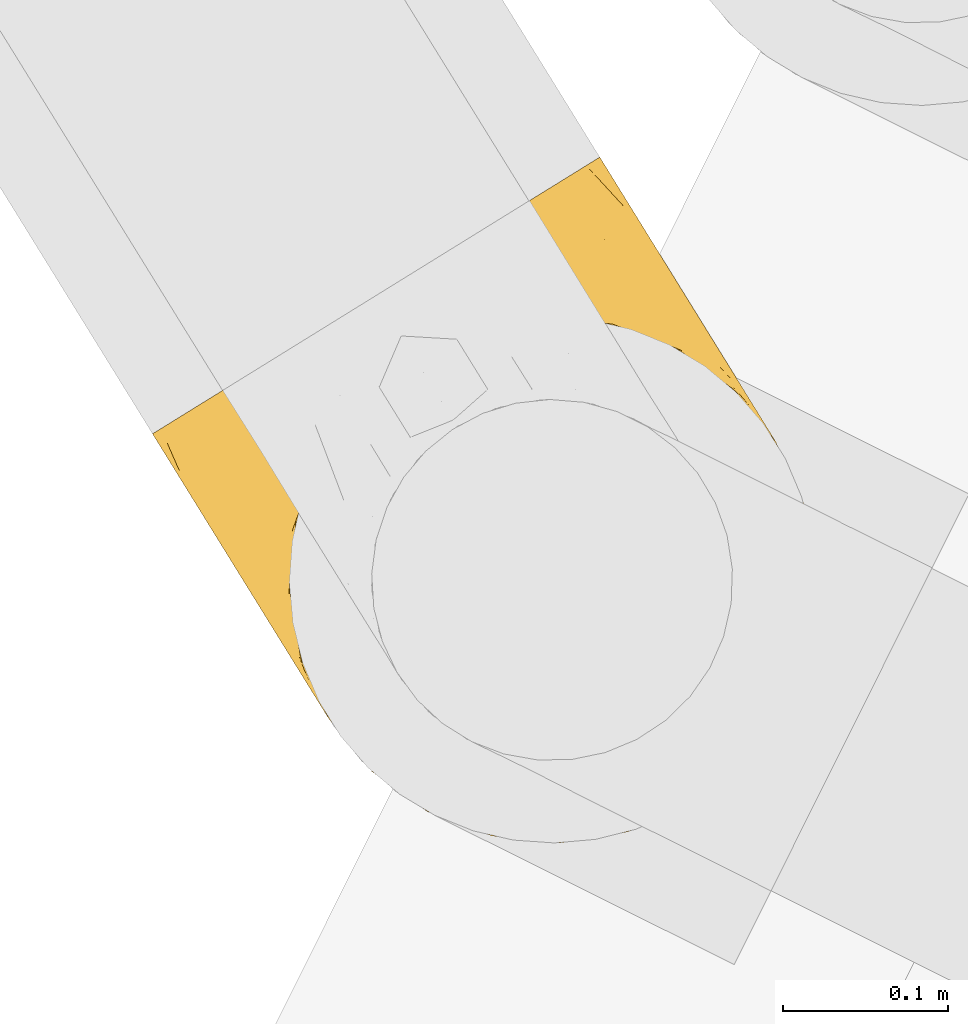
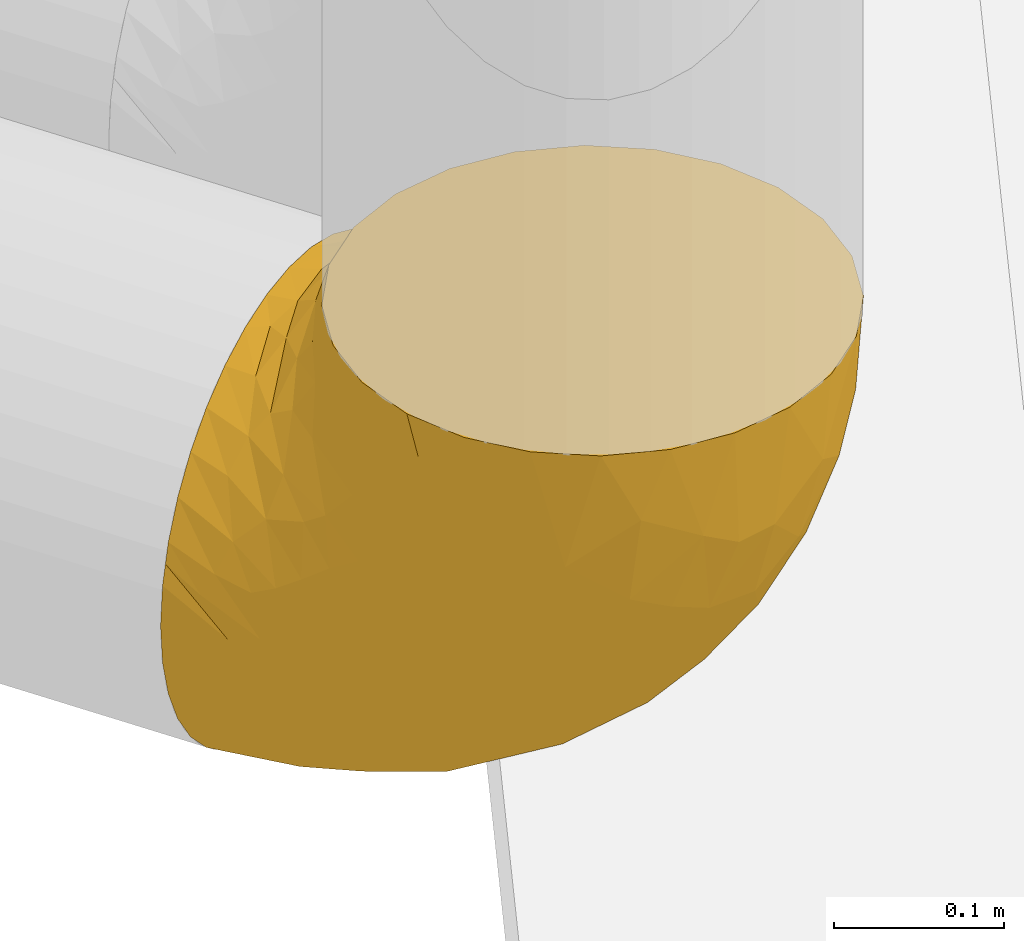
# One storey, part 42 of 91: 1 covering.
"""IFC2X3 building model written with IfcOpenShell, lengths in metres."""

from ifc_helpers import new_model, entity, si_unit, converted_unit, derived_unit, direction, frame, origin, place, context, subcontext, project, spatial, faceted_brep, element, save


model = new_model("IFC2X3")

# Units and contexts
model_context = context("Model", 3, precision=1e-05, world=origin(), true_north=direction((0.894925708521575, 0.446215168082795)))
context_of_model = context(None, 3, precision=1e-05, world=origin(), true_north=direction((0.894925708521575, 0.446215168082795)))
body_context = subcontext(model_context, "Body", "Model", "MODEL_VIEW")
ifc_project = project(units=[si_unit("LENGTHUNIT", "METRE"), si_unit("AREAUNIT", "SQUARE_METRE"), si_unit("VOLUMEUNIT", "CUBIC_METRE"), converted_unit("PLANEANGLEUNIT", "DEGREE", entity("IfcRatioMeasure", 0.0174532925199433), si_unit("PLANEANGLEUNIT", "RADIAN"), dimensions=[0, 0, 0, 0, 0, 0, 0]), si_unit("MASSUNIT", "GRAM", prefix="KILO"), si_unit("TIMEUNIT", "SECOND"), si_unit("FREQUENCYUNIT", "HERTZ"), si_unit("THERMODYNAMICTEMPERATUREUNIT", "DEGREE_CELSIUS"), derived_unit("THERMALTRANSMITTANCEUNIT", [(si_unit("MASSUNIT", "GRAM", prefix="KILO"), 1), (si_unit("THERMODYNAMICTEMPERATUREUNIT", "KELVIN"), -1), (si_unit("TIMEUNIT", "SECOND"), -3)]), derived_unit("VOLUMETRICFLOWRATEUNIT", [(si_unit("LENGTHUNIT", "METRE"), 3), (si_unit("TIMEUNIT", "SECOND"), -1)]), si_unit("ELECTRICCURRENTUNIT", "AMPERE"), si_unit("ELECTRICVOLTAGEUNIT", "VOLT"), si_unit("POWERUNIT", "WATT"), si_unit("FORCEUNIT", "NEWTON", prefix="KILO"), si_unit("ILLUMINANCEUNIT", "LUX"), si_unit("LUMINOUSFLUXUNIT", "LUMEN"), si_unit("LUMINOUSINTENSITYUNIT", "CANDELA"), si_unit("PRESSUREUNIT", "PASCAL")], contexts=[model_context, context_of_model])

# Site, building, storey
site_placement = place(None, frame((218.228324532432, 584.720189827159, 0.0), z_axis=(0.0, 0.0, 1.0), x_axis=(0.446215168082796, 0.894925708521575, 0.0)))
site = spatial("IfcSite", under=ifc_project, at=site_placement, Name="Default", CompositionType="ELEMENT")
building_placement = place(site_placement, origin())
building = spatial("IfcBuilding", under=site, at=building_placement, CompositionType="ELEMENT")
storey_placement = place(building_placement, origin())
storey = spatial("IfcBuildingStorey", under=building, at=storey_placement, Name="0 - Piano Terra", CompositionType="ELEMENT", Elevation=0.0)

# Covering
covering_placement = place(storey_placement, frame((-30.8032905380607, 5.97785126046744, 0.338854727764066)))
element("IfcCovering", 1, at=covering_placement, inside=storey, Name="Isolamento tubazione:Default", ObjectType="Isolamento tubazione:Default", PredefinedType="INSULATION", context=body_context, shape_type="Brep", body=[
    faceted_brep([(0.401519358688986, 0.250969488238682, 0.133442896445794), (0.395398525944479, 0.254758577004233, 0.106575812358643), (0.385403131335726, 0.260946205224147, 0.0813666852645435), (0.371840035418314, 0.269342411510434, 0.05858646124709), (0.355121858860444, 0.279691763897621, 0.0389242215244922), (0.335749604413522, 0.29168411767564, 0.022970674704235), (0.314314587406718, 0.304953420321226, 0.0112156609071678), (0.29147303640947, 0.31909343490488, 0.00401834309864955), (0.267920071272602, 0.333673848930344, 0.0015952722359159), (0.244365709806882, 0.348255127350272, 0.00401863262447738), (0.221521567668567, 0.362396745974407, 0.0112173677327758), (0.200087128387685, 0.375665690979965, 0.0229729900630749), (0.180717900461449, 0.387656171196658, 0.0389245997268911), (0.163999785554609, 0.398005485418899, 0.0585869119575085), (0.150435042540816, 0.406402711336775, 0.0813706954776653), (0.140440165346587, 0.412590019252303, 0.106580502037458), (0.134320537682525, 0.416378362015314, 0.133444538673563), (0.132260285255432, 0.417653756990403, 0.161145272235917), (0.133065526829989, 0.41715527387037, 0.171971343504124), (0.134320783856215, 0.416378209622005, 0.188847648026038), (0.137381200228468, 0.41448366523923, 0.202281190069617), (0.140441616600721, 0.412589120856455, 0.21571473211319), (0.150437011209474, 0.40640149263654, 0.240923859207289), (0.164000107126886, 0.398005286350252, 0.263704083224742), (0.180718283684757, 0.387655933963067, 0.28336632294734), (0.200090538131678, 0.375663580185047, 0.299319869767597), (0.221525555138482, 0.36239427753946, 0.311074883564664), (0.244367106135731, 0.348254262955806, 0.318272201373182), (0.267920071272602, 0.333673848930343, 0.320695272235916), (0.291474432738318, 0.319092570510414, 0.318271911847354), (0.314318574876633, 0.304950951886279, 0.311073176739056), (0.335753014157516, 0.291682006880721, 0.299317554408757), (0.355122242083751, 0.279691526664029, 0.28336594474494), (0.371840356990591, 0.269342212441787, 0.263703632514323), (0.385405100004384, 0.260944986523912, 0.240919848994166), (0.395399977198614, 0.254757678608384, 0.215710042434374), (0.401519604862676, 0.250969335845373, 0.188846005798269), (0.402774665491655, 0.250192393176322, 0.171971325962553), (0.403579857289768, 0.249693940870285, 0.161145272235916), (0.124526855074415, 0.31637876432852, 0.364145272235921), (0.105051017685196, 0.30900371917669, 0.364145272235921), (0.085575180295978, 0.301628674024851, 0.364145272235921), (0.0686717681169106, 0.289464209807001, 0.364145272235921), (0.0517683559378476, 0.277299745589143, 0.364145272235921), (0.039402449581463, 0.262169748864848, 0.364145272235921), (0.0324063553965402, 0.253609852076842, 0.364145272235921), (0.0254102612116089, 0.245049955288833, 0.364145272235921), (0.00829715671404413, 0.20707707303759, 0.364145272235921), (0.00159527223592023, 0.165968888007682, 0.364145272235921), (0.00576133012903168, 0.124526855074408, 0.364145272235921), (0.0205114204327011, 0.0855751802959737, 0.364145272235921), (0.044840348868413, 0.0517683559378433, 0.364145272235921), (0.0770901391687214, 0.0254102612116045, 0.364145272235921), (0.115063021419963, 0.0082971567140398, 0.364145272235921), (0.156171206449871, 0.0015952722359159, 0.364145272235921), (0.197613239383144, 0.00576133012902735, 0.364145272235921), (0.23656491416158, 0.0205114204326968, 0.364145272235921), (0.270371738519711, 0.0448403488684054, 0.364145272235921), (0.29672983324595, 0.0770901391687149, 0.364145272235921), (0.301272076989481, 0.0871690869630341, 0.364145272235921), (0.305814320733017, 0.097248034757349, 0.364145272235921), (0.313842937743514, 0.115063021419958, 0.364145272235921), (0.317193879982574, 0.135617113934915, 0.364145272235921), (0.320544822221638, 0.156171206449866, 0.364145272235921), (0.318461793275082, 0.176892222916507, 0.364145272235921), (0.316378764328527, 0.197613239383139, 0.364145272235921), (0.301628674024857, 0.236564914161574, 0.364145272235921), (0.27729974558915, 0.270371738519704, 0.364145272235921), (0.245049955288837, 0.296729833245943, 0.364145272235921), (0.207077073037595, 0.313842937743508, 0.364145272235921), (0.165968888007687, 0.320544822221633, 0.364145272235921), (0.145247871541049, 0.31846179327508, 0.364145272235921), (0.11966708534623, 0.0181429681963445, 0.275645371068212), (0.0799892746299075, 0.0300934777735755, 0.301189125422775), (0.0885985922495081, 0.0440008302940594, 0.240145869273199), (0.282469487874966, 0.0810856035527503, 0.19270285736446), (0.312629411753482, 0.109460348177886, 0.197037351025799), (0.274916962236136, 0.0578786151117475, 0.25767405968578), (0.320041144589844, 0.114746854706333, 0.237576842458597), (0.313676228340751, 0.104465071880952, 0.256821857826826), (0.307311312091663, 0.0941832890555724, 0.276066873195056), (0.158392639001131, 0.0280431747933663, 0.223051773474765), (0.128484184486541, 0.0370541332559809, 0.215164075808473), (0.143626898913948, 0.0644998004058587, 0.159526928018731), (0.263513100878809, 0.128696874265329, 0.0926591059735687), (0.252721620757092, 0.0849492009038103, 0.144663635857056), (0.218796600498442, 0.0822584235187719, 0.130966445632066), (0.144083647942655, 0.00691847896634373, 0.305777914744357), (0.21345696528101, 0.013125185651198, 0.314219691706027), (0.314415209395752, 0.127255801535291, 0.149883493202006), (0.10265650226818, 0.0667097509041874, 0.18287027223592), (0.121735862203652, 0.0975302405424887, 0.131102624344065), (0.157371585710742, 0.102605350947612, 0.109488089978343), (0.145256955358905, 0.135525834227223, 0.0864158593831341), (0.379803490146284, 0.211285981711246, 0.166234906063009), (0.351537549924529, 0.172311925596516, 0.146967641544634), (0.214060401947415, 0.0253899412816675, 0.250140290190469), (0.249074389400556, 0.0464782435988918, 0.22901119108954), (0.249588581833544, 0.0320885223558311, 0.301075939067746), (0.277161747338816, 0.231661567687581, 0.023651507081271), (0.221400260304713, 0.187186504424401, 0.038568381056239), (0.245891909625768, 0.241989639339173, 0.0156740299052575), (0.29940878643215, 0.0814176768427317, 0.318973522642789), (0.298055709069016, 0.0792319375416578, 0.341788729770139), (0.297392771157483, 0.0781610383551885, 0.35296700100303), (0.173672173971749, 0.00844345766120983, 0.292024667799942), (0.202652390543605, 0.2282414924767, 0.0234597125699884), (0.172505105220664, 0.179542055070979, 0.0501677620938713), (0.303360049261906, 0.0878004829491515, 0.297520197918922), (0.352214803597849, 0.204094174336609, 0.0922467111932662), (0.186776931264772, 0.091611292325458, 0.115617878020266), (0.196209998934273, 0.135683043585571, 0.073154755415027), (0.222589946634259, 0.123344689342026, 0.0846018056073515), (0.313666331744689, 0.177298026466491, 0.0773627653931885), (0.324842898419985, 0.222027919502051, 0.0495812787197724), (0.291811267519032, 0.128393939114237, 0.114293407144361), (0.256727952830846, 0.166165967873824, 0.056183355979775), (0.234782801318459, 0.28014443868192, 0.00710322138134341), (0.397696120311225, 0.240189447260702, 0.162404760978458), (0.391812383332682, 0.230684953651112, 0.163664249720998), (0.357219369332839, 0.174803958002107, 0.181248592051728), (0.347089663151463, 0.15844059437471, 0.193341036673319), (0.336959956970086, 0.142077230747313, 0.205433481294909), (0.368511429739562, 0.193044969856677, 0.173741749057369), (0.328500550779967, 0.128412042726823, 0.221505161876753), (0.181684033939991, 0.0549779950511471, 0.166460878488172), (0.217488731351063, 0.0500366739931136, 0.185436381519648), (0.18933334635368, 0.0283771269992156, 0.223925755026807), (0.282208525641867, 0.294777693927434, 0.324911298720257), (0.311229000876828, 0.105941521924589, 0.337277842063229), (0.375512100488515, 0.239131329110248, 0.237558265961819), (0.316172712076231, 0.119133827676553, 0.328080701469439), (0.350547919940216, 0.221637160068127, 0.267743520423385), (0.346549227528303, 0.257269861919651, 0.282779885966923), (0.33948551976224, 0.237478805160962, 0.287013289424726), (0.329022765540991, 0.138958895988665, 0.270555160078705), (0.337842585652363, 0.157707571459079, 0.258245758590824), (0.334325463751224, 0.172117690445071, 0.285245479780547), (0.375650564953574, 0.215767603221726, 0.21013471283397), (0.306301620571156, 0.240760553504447, 0.334476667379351), (0.316136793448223, 0.208809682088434, 0.339736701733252), (0.321573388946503, 0.214579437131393, 0.319015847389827), (0.360145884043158, 0.224610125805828, 0.253348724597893), (0.351885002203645, 0.185569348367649, 0.24212711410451), (0.361136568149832, 0.190490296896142, 0.217507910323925), (0.32685966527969, 0.234583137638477, 0.303705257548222), (0.343452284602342, 0.206607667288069, 0.275276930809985), (0.326801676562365, 0.267175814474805, 0.30110672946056), (0.327243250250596, 0.186440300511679, 0.311576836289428), (0.281495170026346, 0.275380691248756, 0.33934129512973), (0.303578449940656, 0.270582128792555, 0.319512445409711), (0.342938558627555, 0.157679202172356, 0.232624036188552), (0.350024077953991, 0.167258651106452, 0.217038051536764), (0.303151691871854, 0.291899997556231, 0.314843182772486), (0.383283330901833, 0.223206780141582, 0.196765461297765), (0.332989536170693, 0.201151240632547, 0.29592410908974), (0.321236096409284, 0.171582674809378, 0.344962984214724), (0.256485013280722, 0.315201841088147, 0.326516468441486), (0.248113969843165, 0.301679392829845, 0.34242027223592), (0.323187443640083, 0.17595626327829, 0.329719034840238), (0.318232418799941, 0.117361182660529, 0.293299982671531), (0.324883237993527, 0.135042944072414, 0.289482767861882), (0.329100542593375, 0.158786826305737, 0.297029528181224), (0.323220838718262, 0.143411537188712, 0.315309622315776), (0.344726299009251, 0.176638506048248, 0.25519646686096), (0.32112769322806, 0.14802413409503, 0.339551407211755), (0.154164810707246, 0.364569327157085, 0.280281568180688), (0.121422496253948, 0.345820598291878, 0.274410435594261), (0.114440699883, 0.356641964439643, 0.247884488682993), (0.229508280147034, 0.330698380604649, 0.323578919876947), (0.211238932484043, 0.321193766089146, 0.336527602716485), (0.138698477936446, 0.321047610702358, 0.343779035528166), (0.111083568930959, 0.31472856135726, 0.338896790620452), (0.0882094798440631, 0.323166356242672, 0.267508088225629), (0.065700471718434, 0.305010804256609, 0.249727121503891), (0.077953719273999, 0.30794504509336, 0.288664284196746), (0.0869877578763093, 0.337345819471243, 0.223062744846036), (0.0972482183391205, 0.335444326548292, 0.257122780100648), (0.0757700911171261, 0.326400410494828, 0.19334103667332), (0.0956209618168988, 0.352055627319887, 0.211214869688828), (0.114582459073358, 0.320307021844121, 0.320742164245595), (0.0280892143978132, 0.249377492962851, 0.318973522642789), (0.0267361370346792, 0.24719175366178, 0.341788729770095), (0.0260731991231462, 0.246120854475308, 0.352967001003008), (0.14012247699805, 0.326050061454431, 0.327025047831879), (0.0447694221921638, 0.270892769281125, 0.337277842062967), (0.217191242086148, 0.347755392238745, 0.314621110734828), (0.185485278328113, 0.35826449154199, 0.301284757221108), (0.19972818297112, 0.339348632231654, 0.318085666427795), (0.0735567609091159, 0.298575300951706, 0.316513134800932), (0.0783817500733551, 0.298684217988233, 0.340160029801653), (0.156281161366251, 0.35148317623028, 0.294403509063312), (0.0320404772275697, 0.25576029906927, 0.297520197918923), (0.118489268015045, 0.329009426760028, 0.30206118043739), (0.0543732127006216, 0.281200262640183, 0.328080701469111), (0.126376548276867, 0.408149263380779, 0.162404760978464), (0.120492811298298, 0.398644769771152, 0.163664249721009), (0.108483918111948, 0.379245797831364, 0.16623490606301), (0.143861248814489, 0.377368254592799, 0.259460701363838), (0.0772864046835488, 0.321654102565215, 0.237066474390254), (0.0571809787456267, 0.296371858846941, 0.221505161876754), (0.120478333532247, 0.375731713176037, 0.228265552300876), (0.168523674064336, 0.325942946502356, 0.336132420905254), (0.0858997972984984, 0.342763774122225, 0.181248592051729), (0.0971918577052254, 0.361004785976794, 0.17374174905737), (0.121042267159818, 0.394941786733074, 0.190630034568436), (0.119418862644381, 0.386474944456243, 0.206112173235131), (0.0598773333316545, 0.295509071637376, 0.264351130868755), (0.0359917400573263, 0.26214310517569, 0.276066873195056), (0.174208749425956, 0.334630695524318, 0.320790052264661), (0.145243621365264, 0.339098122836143, 0.30418606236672), (0.103937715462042, 0.366031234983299, 0.202773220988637), (0.0521669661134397, 0.283203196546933, 0.288174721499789), (0.0656403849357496, 0.310037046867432, 0.20543348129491), (0.0487215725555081, 0.282706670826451, 0.237576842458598), (0.0423566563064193, 0.27242488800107, 0.256821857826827), (0.047294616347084, 0.273715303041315, 0.197037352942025), (0.110388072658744, 0.131690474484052, 0.109488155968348), (0.122676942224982, 0.181203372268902, 0.0731551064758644), (0.00912054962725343, 0.186460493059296, 0.27987032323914), (0.0159967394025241, 0.148000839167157, 0.250140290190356), (0.00528784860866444, 0.141991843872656, 0.314219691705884), (0.0209401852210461, 0.231142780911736, 0.270957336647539), (0.142604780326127, 0.334840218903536, 0.0495818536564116), (0.114345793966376, 0.351344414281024, 0.0922510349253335), (0.083521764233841, 0.323709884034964, 0.134305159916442), (0.0801300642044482, 0.202383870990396, 0.104351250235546), (0.0520680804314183, 0.209163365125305, 0.144663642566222), (0.07836531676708, 0.252871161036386, 0.104304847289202), (0.0874353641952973, 0.153108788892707, 0.115618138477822), (0.0485554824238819, 0.149840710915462, 0.168429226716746), (0.0824093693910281, 0.102396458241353, 0.159526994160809), (0.0341296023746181, 0.0824389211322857, 0.276041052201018), (0.0188374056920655, 0.104293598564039, 0.292024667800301), (0.0707019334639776, 0.0707670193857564, 0.214728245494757), (0.0639345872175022, 0.125613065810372, 0.161374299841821), (0.0431939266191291, 0.099356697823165, 0.22305177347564), (0.0516002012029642, 0.0602796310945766, 0.27564537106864), (0.0387787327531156, 0.221129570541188, 0.175378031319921), (0.111755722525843, 0.36926748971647, 0.116541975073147), (0.0268533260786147, 0.122434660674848, 0.236336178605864), (0.122976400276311, 0.248966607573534, 0.0561838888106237), (0.172487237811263, 0.296462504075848, 0.0236528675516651), (0.157543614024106, 0.226717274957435, 0.0385687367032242), (0.0291481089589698, 0.22949102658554, 0.213108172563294), (0.0292810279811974, 0.178896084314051, 0.197487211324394), (0.107551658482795, 0.304894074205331, 0.0773644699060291), (0.195677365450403, 0.273079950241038, 0.015673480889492), (0.0544128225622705, 0.264623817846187, 0.156378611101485), (0.0816062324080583, 0.293145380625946, 0.112245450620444)], [[[0, 1, 2, 3, 4, 5, 6, 7, 8, 9, 10, 11, 12, 13, 14, 15, 16, 17, 18, 19, 20, 21, 22, 23, 24, 25, 26, 27, 28, 29, 30, 31, 32, 33, 34, 35, 36, 37, 38]], [[39, 40, 41, 42, 43, 44, 45, 46, 47, 48, 49, 50, 51, 52, 53, 54, 55, 56, 57, 58, 59, 60, 61, 62, 63, 64, 65, 66, 67, 68, 69, 70, 71]], [[72, 73, 74]], [[73, 53, 52]], [[75, 76, 77]], [[76, 78, 79, 80]], [[81, 82, 83]], [[84, 85, 86]], [[87, 53, 72]], [[88, 56, 55]], [[89, 76, 75]], [[83, 82, 90]], [[91, 83, 90]], [[92, 91, 93]], [[0, 94, 95]], [[96, 97, 98]], [[99, 100, 101]], [[57, 102, 103, 104, 58]], [[55, 54, 105]], [[106, 100, 107]], [[98, 57, 56]], [[77, 80, 108, 102]], [[2, 1, 109]], [[102, 57, 77]], [[110, 111, 112]], [[89, 95, 76]], [[76, 80, 77]], [[91, 92, 83]], [[109, 113, 114]], [[115, 109, 89]], [[111, 107, 100]], [[109, 0, 95]], [[5, 99, 6]], [[105, 96, 88]], [[7, 6, 101]], [[99, 5, 114]], [[99, 114, 116]], [[99, 101, 6]], [[82, 81, 72]], [[4, 114, 5]], [[113, 116, 114]], [[117, 8, 7]], [[117, 101, 106]], [[114, 3, 2]], [[0, 38, 118, 119, 94]], [[95, 120, 121, 122]], [[110, 112, 86]], [[85, 84, 115]], [[85, 75, 97]], [[95, 94, 123, 120]], [[116, 112, 111]], [[76, 95, 122]], [[53, 73, 72]], [[76, 122, 124, 78]], [[99, 116, 100]], [[3, 114, 4]], [[2, 109, 114]], [[81, 105, 87]], [[125, 83, 110]], [[92, 111, 110]], [[0, 109, 1]], [[125, 126, 127]], [[89, 109, 95]], [[97, 75, 77]], [[115, 75, 85]], [[98, 97, 77]], [[97, 96, 126]], [[93, 107, 111]], [[83, 92, 110]], [[111, 92, 93]], [[116, 111, 100]], [[57, 98, 77]], [[98, 56, 88]], [[87, 105, 54]], [[105, 81, 127]], [[84, 112, 116]], [[112, 84, 86]], [[116, 113, 84]], [[115, 84, 113]], [[126, 86, 85]], [[125, 110, 86]], [[97, 126, 85]], [[127, 126, 96]], [[126, 125, 86]], [[83, 125, 81]], [[109, 115, 113]], [[75, 115, 89]], [[105, 127, 96]], [[125, 127, 81]], [[106, 101, 100]], [[7, 101, 117]], [[105, 88, 55]], [[98, 88, 96]], [[72, 74, 82]], [[90, 82, 74]], [[53, 87, 54]], [[81, 87, 72]], [[59, 58, 104, 103, 102, 61, 60]], [[29, 28, 128]], [[61, 129, 62]], [[130, 34, 33]], [[63, 62, 131]], [[102, 129, 61]], [[132, 133, 134]], [[135, 136, 137]], [[130, 138, 34]], [[139, 140, 141]], [[142, 143, 144]], [[134, 145, 146]], [[147, 31, 30]], [[141, 140, 148]], [[149, 68, 67]], [[67, 66, 139]], [[142, 32, 133]], [[134, 133, 147]], [[150, 128, 149]], [[136, 124, 151]], [[151, 122, 152]], [[147, 153, 150]], [[142, 33, 32]], [[30, 153, 147]], [[94, 35, 154]], [[138, 123, 154]], [[119, 118, 38, 37, 36, 94]], [[149, 67, 139]], [[145, 155, 146]], [[94, 36, 35]], [[156, 65, 64]], [[138, 130, 144]], [[157, 128, 28]], [[150, 153, 128]], [[154, 34, 138]], [[138, 120, 123]], [[149, 128, 158]], [[31, 133, 32]], [[31, 147, 133]], [[30, 29, 153]], [[145, 147, 150]], [[159, 148, 140]], [[144, 120, 138]], [[160, 131, 80]], [[161, 135, 162]], [[108, 131, 129]], [[80, 131, 108]], [[159, 156, 163]], [[150, 139, 145]], [[155, 141, 148]], [[142, 132, 143]], [[152, 144, 143]], [[108, 129, 102]], [[131, 62, 129]], [[29, 128, 153]], [[158, 128, 157]], [[149, 158, 68]], [[139, 150, 149]], [[164, 136, 151]], [[144, 152, 121]], [[164, 155, 137]], [[135, 78, 136]], [[145, 134, 147]], [[132, 134, 146]], [[143, 132, 146]], [[133, 132, 142]], [[33, 142, 130]], [[144, 130, 142]], [[141, 145, 139]], [[137, 155, 148]], [[137, 162, 135]], [[137, 136, 164]], [[162, 137, 148]], [[159, 162, 148]], [[160, 79, 161]], [[79, 78, 135]], [[161, 162, 163]], [[160, 161, 163]], [[79, 135, 161]], [[160, 163, 165]], [[79, 160, 80]], [[145, 141, 155]], [[140, 139, 66]], [[66, 65, 140]], [[159, 163, 162]], [[140, 65, 159]], [[63, 165, 64]], [[156, 159, 65]], [[63, 131, 165]], [[160, 165, 131]], [[64, 165, 156]], [[163, 156, 165]], [[121, 152, 122]], [[121, 120, 144]], [[151, 152, 143]], [[164, 151, 143]], [[143, 146, 164]], [[124, 136, 78]], [[124, 122, 151]], [[164, 146, 155]], [[94, 154, 123]], [[34, 154, 35]], [[24, 166, 25]], [[167, 166, 168]], [[158, 169, 170]], [[71, 171, 172]], [[158, 157, 169]], [[173, 174, 175]], [[168, 176, 177]], [[170, 68, 158]], [[178, 176, 179]], [[171, 180, 172]], [[45, 44, 43, 181, 182, 183, 46]], [[171, 184, 180]], [[43, 42, 185]], [[186, 187, 188]], [[172, 39, 71]], [[189, 190, 172]], [[191, 188, 187]], [[185, 192, 181]], [[191, 187, 166]], [[180, 184, 193]], [[27, 26, 186]], [[194, 42, 41]], [[18, 17, 195, 196, 197, 19]], [[187, 26, 25]], [[166, 187, 25]], [[24, 198, 166]], [[199, 200, 174]], [[23, 22, 201]], [[23, 198, 24]], [[186, 169, 27]], [[70, 69, 202]], [[203, 178, 179]], [[201, 168, 198]], [[204, 205, 197]], [[204, 206, 205]], [[175, 180, 193]], [[205, 20, 197]], [[174, 207, 175]], [[194, 208, 192]], [[68, 170, 69]], [[184, 209, 210]], [[166, 198, 168]], [[169, 28, 27]], [[167, 210, 191]], [[201, 198, 23]], [[203, 179, 211]], [[21, 206, 22]], [[185, 181, 43]], [[172, 190, 40]], [[194, 189, 212]], [[187, 186, 26]], [[169, 186, 188]], [[169, 188, 170]], [[169, 157, 28]], [[209, 170, 188]], [[69, 170, 202]], [[42, 194, 185]], [[192, 185, 194]], [[211, 204, 203]], [[201, 22, 206]], [[177, 176, 199]], [[193, 167, 173]], [[199, 176, 213]], [[213, 176, 178]], [[179, 168, 201]], [[200, 214, 174]], [[177, 199, 173]], [[199, 213, 200]], [[168, 179, 176]], [[179, 201, 211]], [[201, 206, 211]], [[204, 211, 206]], [[212, 175, 207]], [[199, 174, 173]], [[207, 174, 214]], [[172, 175, 189]], [[214, 215, 207]], [[208, 212, 215]], [[207, 215, 212]], [[194, 212, 208]], [[212, 189, 175]], [[167, 191, 166]], [[191, 210, 209]], [[20, 205, 21]], [[20, 19, 197]], [[206, 21, 205]], [[171, 202, 184]], [[70, 202, 171]], [[71, 70, 171]], [[175, 172, 180]], [[190, 41, 40]], [[190, 194, 41]], [[39, 172, 40]], [[194, 190, 189]], [[209, 184, 202]], [[193, 184, 210]], [[167, 193, 210]], [[175, 193, 173]], [[170, 209, 202]], [[191, 209, 188]], [[173, 167, 177]], [[168, 177, 167]], [[216, 208, 215, 214]], [[93, 217, 218]], [[219, 220, 221]], [[222, 46, 183, 182, 181]], [[222, 208, 216]], [[223, 224, 14]], [[203, 225, 216]], [[226, 227, 228]], [[14, 224, 15]], [[216, 214, 200, 213]], [[229, 230, 226]], [[217, 231, 229]], [[232, 50, 233]], [[90, 74, 234]], [[73, 52, 51]], [[223, 12, 11]], [[49, 48, 221]], [[235, 236, 230]], [[49, 233, 50]], [[74, 73, 237]], [[227, 238, 228]], [[236, 231, 234]], [[16, 15, 239]], [[234, 74, 237]], [[233, 240, 236]], [[231, 91, 90]], [[225, 203, 204, 197]], [[241, 242, 243]], [[222, 181, 192, 208]], [[107, 93, 218]], [[239, 197, 16]], [[16, 197, 196, 195, 17]], [[232, 51, 50]], [[244, 222, 216]], [[47, 222, 219]], [[245, 230, 240]], [[246, 224, 223]], [[243, 106, 107]], [[48, 47, 219]], [[14, 13, 223]], [[73, 51, 237]], [[11, 242, 223]], [[12, 223, 13]], [[247, 243, 242]], [[11, 10, 242]], [[243, 218, 241]], [[106, 243, 247]], [[91, 217, 93]], [[247, 9, 117]], [[46, 222, 47]], [[8, 117, 9]], [[248, 216, 225]], [[219, 222, 244]], [[242, 241, 223]], [[228, 248, 249]], [[244, 245, 219]], [[10, 9, 247]], [[244, 216, 248]], [[245, 244, 238]], [[216, 213, 178, 203]], [[241, 246, 223]], [[249, 224, 246]], [[239, 224, 225]], [[249, 225, 224]], [[238, 244, 248]], [[231, 217, 91]], [[218, 217, 229]], [[218, 229, 226]], [[107, 218, 243]], [[249, 246, 228]], [[248, 225, 249]], [[233, 49, 221]], [[232, 233, 236]], [[224, 239, 15]], [[197, 239, 225]], [[246, 241, 228]], [[231, 235, 229]], [[228, 241, 226]], [[218, 226, 241]], [[230, 236, 240]], [[227, 226, 230]], [[228, 238, 248]], [[245, 238, 227]], [[230, 245, 227]], [[219, 245, 220]], [[247, 242, 10]], [[106, 247, 117]], [[219, 221, 48]], [[233, 221, 220]], [[236, 234, 237]], [[90, 234, 231]], [[233, 220, 240]], [[240, 220, 245]], [[236, 237, 232]], [[232, 237, 51]], [[236, 235, 231]], [[230, 229, 235]]]),
])

save(model, "model.ifc")
